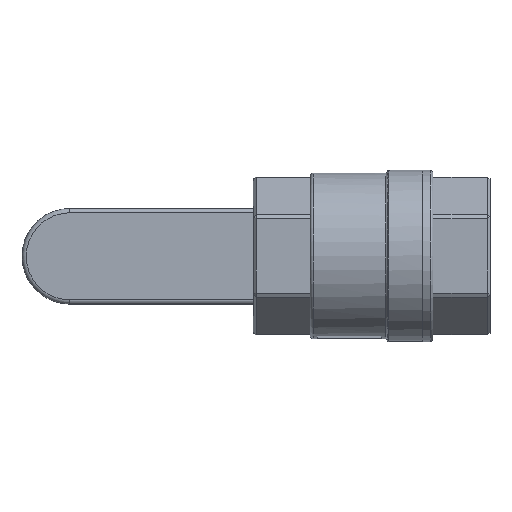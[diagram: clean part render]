
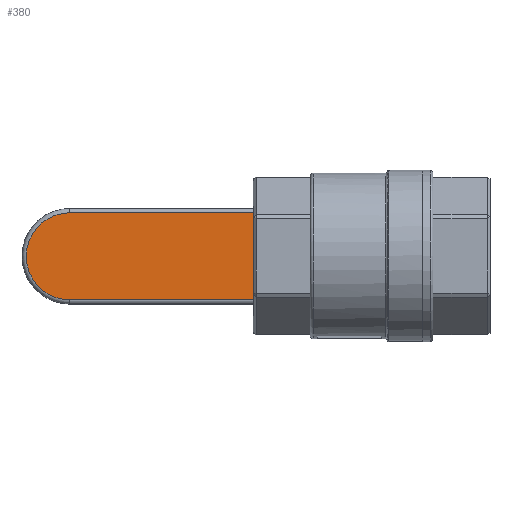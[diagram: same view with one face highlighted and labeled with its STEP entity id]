
A CAD part, top view. The second image highlights one B-rep face of the part: STEP entity #380.
In plain terms, the highlighted planar face has unit normal (0, 0, 1).
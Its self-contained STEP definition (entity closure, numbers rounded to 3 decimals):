
#380 = ADVANCED_FACE( '', ( #1023 ), #1024, .F. );
#1023 = FACE_OUTER_BOUND( '', #2726, .T. );
#1024 = PLANE( '', #2727 );
#2726 = EDGE_LOOP( '', ( #5064, #5065, #5066, #5067 ) );
#2727 = AXIS2_PLACEMENT_3D( '', #5068, #5069, #5070 );
#5064 = ORIENTED_EDGE( '', *, *, #8047, .T. );
#5065 = ORIENTED_EDGE( '', *, *, #8048, .T. );
#5066 = ORIENTED_EDGE( '', *, *, #8049, .F. );
#5067 = ORIENTED_EDGE( '', *, *, #8050, .T. );
#5068 = CARTESIAN_POINT( '', ( -294.5, 0., -132. ) );
#5069 = DIRECTION( '', ( 0., 0., -1. ) );
#5070 = DIRECTION( '', ( -1., 0., 0. ) );
#8047 = EDGE_CURVE( '', #9097, #9098, #9099, .F. );
#8048 = EDGE_CURVE( '', #9098, #9100, #9101, .F. );
#8049 = EDGE_CURVE( '', #9102, #9100, #9103, .T. );
#8050 = EDGE_CURVE( '', #9102, #9097, #9104, .F. );
#9097 = VERTEX_POINT( '', #11206 );
#9098 = VERTEX_POINT( '', #11207 );
#9099 = CIRCLE( '', #11208, 30.5 );
#9100 = VERTEX_POINT( '', #11209 );
#9101 = LINE( '', #11210, #11211 );
#9102 = VERTEX_POINT( '', #11212 );
#9103 = LINE( '', #11213, #11214 );
#9104 = LINE( '', #11215, #11216 );
#11206 = CARTESIAN_POINT( '', ( -294.5, 30.5, -132. ) );
#11207 = CARTESIAN_POINT( '', ( -294.5, -30.5, -132. ) );
#11208 = AXIS2_PLACEMENT_3D( '', #14636, #14637, #14638 );
#11209 = CARTESIAN_POINT( '', ( -141., -30.5, -132. ) );
#11210 = CARTESIAN_POINT( '', ( -141., -30.5, -132. ) );
#11211 = VECTOR( '', #14639, 1000. );
#11212 = CARTESIAN_POINT( '', ( -141., 30.5, -132. ) );
#11213 = CARTESIAN_POINT( '', ( -141., 33.5, -132. ) );
#11214 = VECTOR( '', #14640, 1000. );
#11215 = CARTESIAN_POINT( '', ( -294.5, 30.5, -132. ) );
#11216 = VECTOR( '', #14641, 1000. );
#14636 = CARTESIAN_POINT( '', ( -294.5, 0., -132. ) );
#14637 = DIRECTION( '', ( 0., 0., -1. ) );
#14638 = DIRECTION( '', ( -1., 0., 0. ) );
#14639 = DIRECTION( '', ( -1., 0., 0. ) );
#14640 = DIRECTION( '', ( 0., -1., 0. ) );
#14641 = DIRECTION( '', ( 1., 0., 0. ) );
